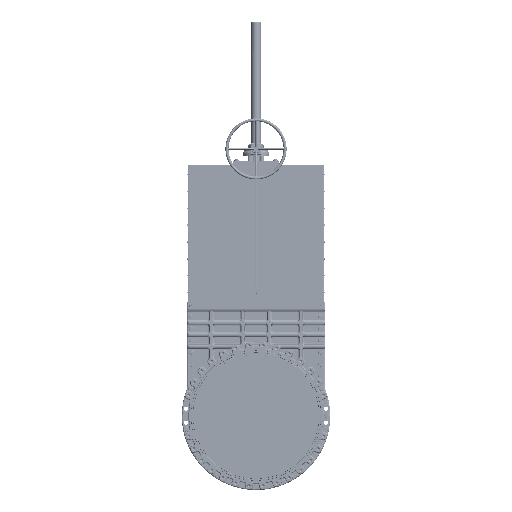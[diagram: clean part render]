
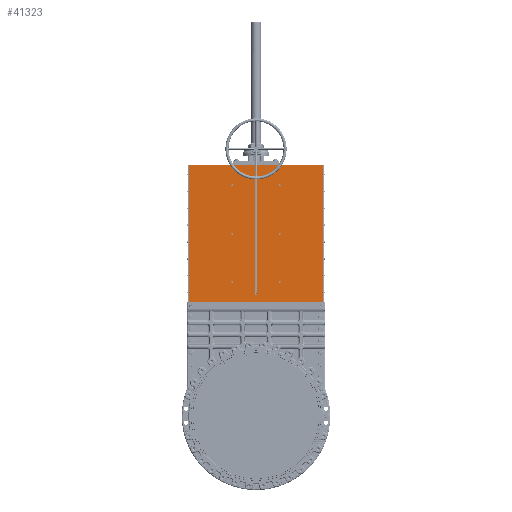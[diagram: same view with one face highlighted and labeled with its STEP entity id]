
A CAD part, top view. The second image highlights one B-rep face of the part: STEP entity #41323.
In plain terms, the highlighted planar face has unit normal (0, 0, 1).
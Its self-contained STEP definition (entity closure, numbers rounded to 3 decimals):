
#29457=LINE('',#185773,#33462);
#29465=LINE('',#185797,#33470);
#29473=LINE('',#185819,#33478);
#29474=LINE('',#185833,#33479);
#29475=LINE('',#185837,#33480);
#29476=LINE('',#185841,#33481);
#33462=VECTOR('',#137261,1.);
#33470=VECTOR('',#137285,1.);
#33478=VECTOR('',#137309,1.);
#33479=VECTOR('',#137324,1.);
#33480=VECTOR('',#137327,1.);
#33481=VECTOR('',#137330,1.);
#36324=PLANE('',#115601);
#41323=ADVANCED_FACE('',(#47819,#47820,#47821,#47822,#47823,#47824,#47825,
#47826),#36324,.F.);
#47819=FACE_BOUND('',#54923,.T.);
#47820=FACE_BOUND('',#54924,.T.);
#47821=FACE_BOUND('',#54925,.T.);
#47822=FACE_BOUND('',#54926,.T.);
#47823=FACE_BOUND('',#54927,.T.);
#47824=FACE_BOUND('',#54928,.T.);
#47825=FACE_BOUND('',#54929,.T.);
#47826=FACE_BOUND('',#54930,.T.);
#54923=EDGE_LOOP('',(#74378));
#54924=EDGE_LOOP('',(#74379));
#54925=EDGE_LOOP('',(#74380));
#54926=EDGE_LOOP('',(#74381));
#54927=EDGE_LOOP('',(#74382));
#54928=EDGE_LOOP('',(#74383));
#54929=EDGE_LOOP('',(#74384,#74385,#74386,#74387));
#54930=EDGE_LOOP('',(#74388,#74389,#74390,#74391));
#74378=ORIENTED_EDGE('',*,*,#96584,.F.);
#74379=ORIENTED_EDGE('',*,*,#96585,.F.);
#74380=ORIENTED_EDGE('',*,*,#96586,.F.);
#74381=ORIENTED_EDGE('',*,*,#96587,.T.);
#74382=ORIENTED_EDGE('',*,*,#96588,.T.);
#74383=ORIENTED_EDGE('',*,*,#96589,.T.);
#74384=ORIENTED_EDGE('',*,*,#96583,.T.);
#74385=ORIENTED_EDGE('',*,*,#96571,.T.);
#74386=ORIENTED_EDGE('',*,*,#96590,.F.);
#74387=ORIENTED_EDGE('',*,*,#96559,.F.);
#74388=ORIENTED_EDGE('',*,*,#96591,.T.);
#74389=ORIENTED_EDGE('',*,*,#96592,.T.);
#74390=ORIENTED_EDGE('',*,*,#96593,.T.);
#74391=ORIENTED_EDGE('',*,*,#96594,.T.);
#85953=VERTEX_POINT('',#185772);
#85954=VERTEX_POINT('',#185774);
#85961=VERTEX_POINT('',#185794);
#85962=VERTEX_POINT('',#185798);
#85968=VERTEX_POINT('',#185822);
#85969=VERTEX_POINT('',#185824);
#85970=VERTEX_POINT('',#185826);
#85971=VERTEX_POINT('',#185828);
#85972=VERTEX_POINT('',#185830);
#85973=VERTEX_POINT('',#185832);
#85974=VERTEX_POINT('',#185835);
#85975=VERTEX_POINT('',#185836);
#85976=VERTEX_POINT('',#185838);
#85977=VERTEX_POINT('',#185840);
#96559=EDGE_CURVE('',#85953,#85954,#29457,.T.);
#96571=EDGE_CURVE('',#85962,#85961,#29465,.T.);
#96583=EDGE_CURVE('',#85953,#85962,#29473,.T.);
#96584=EDGE_CURVE('',#85968,#85968,#103264,.T.);
#96585=EDGE_CURVE('',#85969,#85969,#103265,.T.);
#96586=EDGE_CURVE('',#85970,#85970,#103266,.T.);
#96587=EDGE_CURVE('',#85971,#85971,#103267,.T.);
#96588=EDGE_CURVE('',#85972,#85972,#103268,.T.);
#96589=EDGE_CURVE('',#85973,#85973,#103269,.T.);
#96590=EDGE_CURVE('',#85954,#85961,#29474,.T.);
#96591=EDGE_CURVE('',#85974,#85975,#103270,.T.);
#96592=EDGE_CURVE('',#85975,#85976,#29475,.T.);
#96593=EDGE_CURVE('',#85976,#85977,#103271,.T.);
#96594=EDGE_CURVE('',#85977,#85974,#29476,.T.);
#103264=CIRCLE('',#115593,10.);
#103265=CIRCLE('',#115594,10.);
#103266=CIRCLE('',#115595,10.);
#103267=CIRCLE('',#115596,10.);
#103268=CIRCLE('',#115597,10.);
#103269=CIRCLE('',#115598,10.);
#103270=CIRCLE('',#115599,5.);
#103271=CIRCLE('',#115600,5.);
#115593=AXIS2_PLACEMENT_3D('',#185821,#137312,#137313);
#115594=AXIS2_PLACEMENT_3D('',#185823,#137314,#137315);
#115595=AXIS2_PLACEMENT_3D('',#185825,#137316,#137317);
#115596=AXIS2_PLACEMENT_3D('',#185827,#137318,#137319);
#115597=AXIS2_PLACEMENT_3D('',#185829,#137320,#137321);
#115598=AXIS2_PLACEMENT_3D('',#185831,#137322,#137323);
#115599=AXIS2_PLACEMENT_3D('',#185834,#137325,#137326);
#115600=AXIS2_PLACEMENT_3D('',#185839,#137328,#137329);
#115601=AXIS2_PLACEMENT_3D('',#185842,#137331,#137332);
#137261=DIRECTION('',(-1.,0.,0.));
#137285=DIRECTION('',(-1.,0.,0.));
#137309=DIRECTION('',(0.,1.,0.));
#137312=DIRECTION('',(0.,0.,1.));
#137313=DIRECTION('',(-1.,0.,0.));
#137314=DIRECTION('',(0.,0.,1.));
#137315=DIRECTION('',(-1.,0.,0.));
#137316=DIRECTION('',(0.,0.,1.));
#137317=DIRECTION('',(-1.,0.,0.));
#137318=DIRECTION('',(0.,0.,-1.));
#137319=DIRECTION('',(0.,1.,0.));
#137320=DIRECTION('',(0.,0.,-1.));
#137321=DIRECTION('',(0.,1.,0.));
#137322=DIRECTION('',(0.,0.,-1.));
#137323=DIRECTION('',(0.,1.,0.));
#137324=DIRECTION('',(0.,1.,0.));
#137325=DIRECTION('',(0.,0.,-1.));
#137326=DIRECTION('',(-1.,0.,0.));
#137327=DIRECTION('',(0.,-1.,0.));
#137328=DIRECTION('',(0.,0.,-1.));
#137329=DIRECTION('',(1.,0.,0.));
#137330=DIRECTION('',(0.,1.,0.));
#137331=DIRECTION('',(0.,0.,-1.));
#137332=DIRECTION('',(1.,0.,0.));
#185772=CARTESIAN_POINT('',(660.,1115.1,137.5));
#185773=CARTESIAN_POINT('',(660.,1115.1,137.5));
#185774=CARTESIAN_POINT('',(-660.,1115.1,137.5));
#185794=CARTESIAN_POINT('',(-660.,2457.,137.5));
#185797=CARTESIAN_POINT('',(660.,2457.,137.5));
#185798=CARTESIAN_POINT('',(660.,2457.,137.5));
#185819=CARTESIAN_POINT('',(660.,1115.,137.5));
#185821=CARTESIAN_POINT('',(232.,1315.,137.5));
#185822=CARTESIAN_POINT('',(222.,1315.,137.5));
#185823=CARTESIAN_POINT('',(232.,2257.,137.5));
#185824=CARTESIAN_POINT('',(222.,2257.,137.5));
#185825=CARTESIAN_POINT('',(232.,1786.,137.5));
#185826=CARTESIAN_POINT('',(222.,1786.,137.5));
#185827=CARTESIAN_POINT('',(-232.,1315.,137.5));
#185828=CARTESIAN_POINT('',(-232.,1325.,137.5));
#185829=CARTESIAN_POINT('',(-232.,2257.,137.5));
#185830=CARTESIAN_POINT('',(-232.,2267.,137.5));
#185831=CARTESIAN_POINT('',(-232.,1786.,137.5));
#185832=CARTESIAN_POINT('',(-232.,1796.,137.5));
#185833=CARTESIAN_POINT('',(-660.,1115.,137.5));
#185834=CARTESIAN_POINT('',(0.,2412.,137.5));
#185835=CARTESIAN_POINT('',(-5.,2412.,137.5));
#185836=CARTESIAN_POINT('',(5.,2412.,137.5));
#185837=CARTESIAN_POINT('',(5.,2412.,137.5));
#185838=CARTESIAN_POINT('',(5.,1180.,137.5));
#185839=CARTESIAN_POINT('',(0.,1180.,137.5));
#185840=CARTESIAN_POINT('',(-5.,1180.,137.5));
#185841=CARTESIAN_POINT('',(-5.,1180.,137.5));
#185842=CARTESIAN_POINT('',(660.,1115.,137.5));
